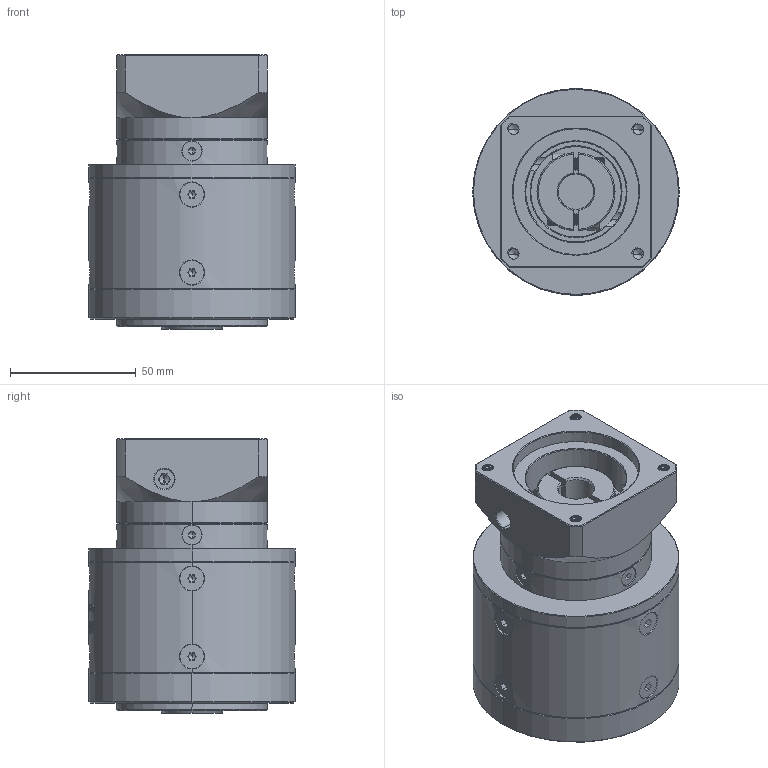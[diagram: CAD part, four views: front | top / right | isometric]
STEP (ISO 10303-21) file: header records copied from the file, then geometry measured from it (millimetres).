
FILE_DESCRIPTION (( 'STEP AP214' ), '1' );
FILE_NAME ('ZE80-K15-L2-14-50-70-M5.step', '2022-05-08T06:06:42', ( '' ), ( 'Microsoft' ), 'SwSTEP 2.0', 'SolidWorks 2016', '' );
FILE_SCHEMA (( 'AUTOMOTIVE_DESIGN' ));
Length unit declared in the file: millimetre
Products named in the file (1): ZE80-K15-L2-14-50-70-M5
Bounding box: 82 x 82 x 109 mm (x, y, z)
Volume: 425597 mm3; surface area: 63025.4 mm2
Topology: 18 solids, 18 shells, 2077 faces, 5468 edges, 3481 vertices
Faces by surface type: plane 936, cylinder 490, bspline 330, cone 307, torus 14
Entity records: 115392 total; most frequent: CARTESIAN_POINT 45287, ORIENTED_EDGE 10848, DIRECTION 8470, EDGE_CURVE 5424, VERTEX_POINT 3481, VECTOR 2918, LINE 2918, AXIS2_PLACEMENT_3D 2776
